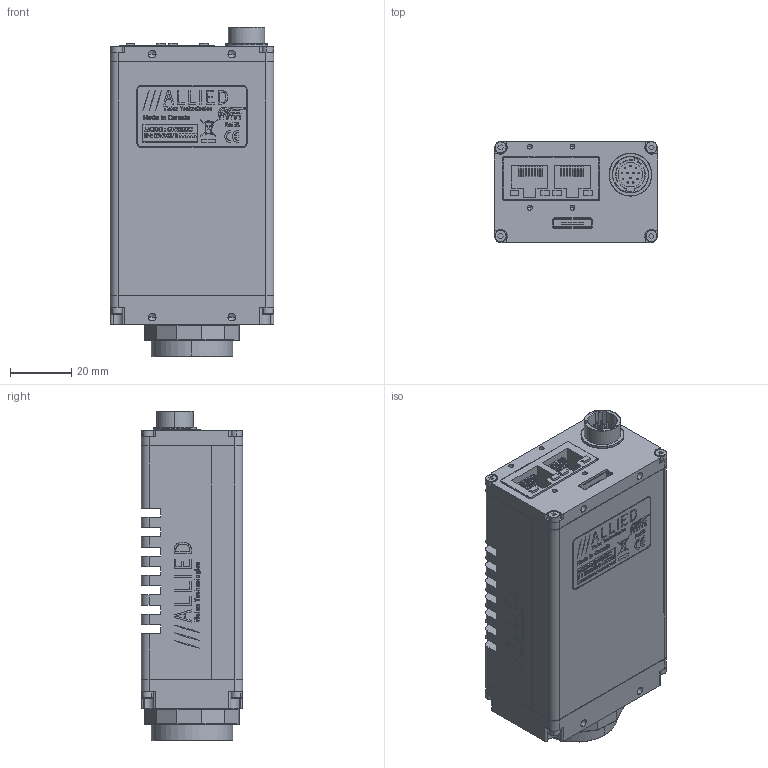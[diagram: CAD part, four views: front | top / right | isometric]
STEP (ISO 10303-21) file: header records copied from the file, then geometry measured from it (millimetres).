
FILE_DESCRIPTION (( 'STEP AP214' ), '1' );
FILE_NAME ('GX2300C CMOUNT.STEP', '2013-08-07T19:08:29', ( '' ), ( '' ), 'SwSTEP 2.0', 'SolidWorks 2013', '' );
FILE_SCHEMA (( 'AUTOMOTIVE_DESIGN' ));
Length unit declared in the file: millimetre
Products named in the file (25): KODAK KAI-04050 BODY; 100172B - GX BODY ASSY-THERMAL; 200114A-GX MAIN PCBA; 260043-HALO HFJ12-1G16ER-L12RL; 110099B-GX BOTTOM COVER-THERMAL_Finished; 110100B-GX TOP COVER-THERMAL_Finished; 100171A - GX BACK ASSY; 260034-HIROSE HR10A-10R-12PB; 740119B-GX2300C THERMAL LABEL PRINT; 110097A-GX BACK PLATE; 100178A - GX2300C FRONT ASSY CMOUNT; 200115A-GX POWER PCBA; 110103A-GX CCD GASKET; 260048-HIROSE 3260-8S3; 110031A-B EC-CCD LOCKING RING; 740102B-GX SERIES LABEL; 110003AC-CV CMOUNT RING; 140061-SCREW SKT CAP M2x8 SS; 100097A-IR FILTER ASSEMBLY 0.75 INCH; 110054AB-IR FILTER SUPPORT; GX2300C CMOUNT; 440002-IR CUT FILTER 22MM DIA; 110109A-GX FRONT PLATE LF; 220181-KODAK KAI-04050-CBA; KODAK KAI-04050 WINDOW
Assembly tree (31 placements, depth 4):
  GX2300C CMOUNT
    140061-SCREW SKT CAP M2x8 SS  x4
    740102B-GX SERIES LABEL
    100172B - GX BODY ASSY-THERMAL
      140061-SCREW SKT CAP M2x8 SS  x4
      200115A-GX POWER PCBA
        260048-HIROSE 3260-8S3
      100171A - GX BACK ASSY
        110097A-GX BACK PLATE
        260034-HIROSE HR10A-10R-12PB
      110100B-GX TOP COVER-THERMAL_Finished
      110099B-GX BOTTOM COVER-THERMAL_Finished
      200114A-GX MAIN PCBA
        260043-HALO HFJ12-1G16ER-L12RL
    100178A - GX2300C FRONT ASSY CMOUNT
      220181-KODAK KAI-04050-CBA
        KODAK KAI-04050 BODY
        KODAK KAI-04050 WINDOW
      110109A-GX FRONT PLATE LF
      100097A-IR FILTER ASSEMBLY 0.75 INCH
        440002-IR CUT FILTER 22MM DIA
        110054AB-IR FILTER SUPPORT
      110003AC-CV CMOUNT RING
      110031A-B EC-CCD LOCKING RING
      110103A-GX CCD GASKET
    740119B-GX2300C THERMAL LABEL PRINT
Bounding box: 53.39 x 33.02 x 107.69 mm (x, y, z)
Volume: 79905.5 mm3; surface area: 73170.5 mm2
Topology: 68 solids, 68 shells, 4147 faces, 10737 edges, 6982 vertices
Faces by surface type: plane 2257, bspline 913, cylinder 719, cone 258
Entity records: 201330 total; most frequent: CARTESIAN_POINT 62383, ORIENTED_EDGE 20706, DIRECTION 16401, EDGE_CURVE 10353, LINE 6959, VECTOR 6959, VERTEX_POINT 6814, AXIS2_PLACEMENT_3D 4721
